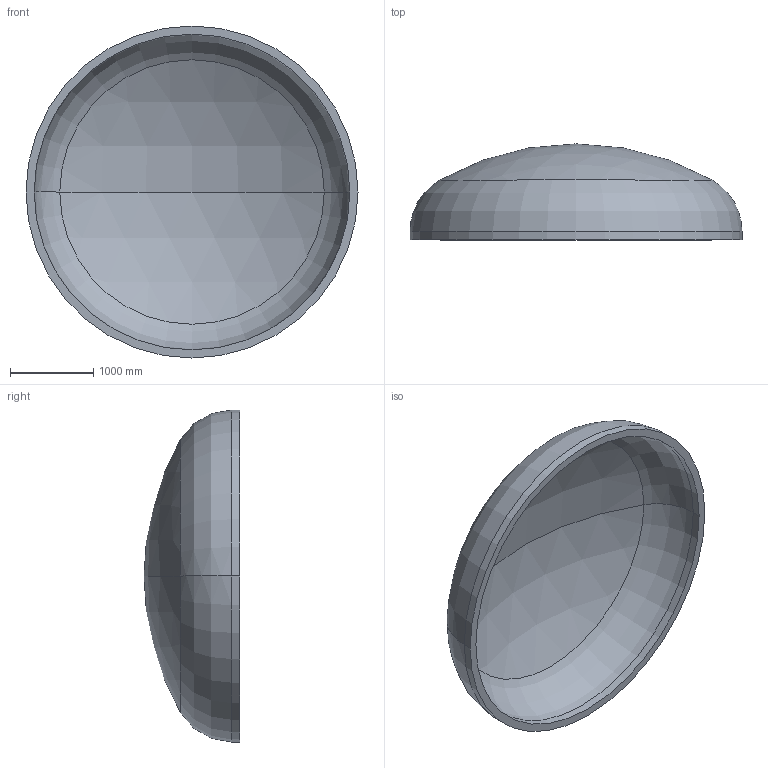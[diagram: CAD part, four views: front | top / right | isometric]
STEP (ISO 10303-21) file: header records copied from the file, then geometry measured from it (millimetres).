
FILE_DESCRIPTION (( 'STEP AP203' ), '1' );
FILE_NAME ('DIN 28013 Korbbogenform_-_Boden DIN 28013 - 4000 x 100 - I - s=98.step', '2016-07-01T22:47:49', ( '' ), ( '' ), 'SwSTEP 2.0', 'SolidWorks 2013', '' );
FILE_SCHEMA (( 'CONFIG_CONTROL_DESIGN' ));
Length unit declared in the file: millimetre
Products named in the file (1): DIN 28013 Korbbogenform_-_Boden DIN 28013 - 4000 x 100 - I - s=98
Bounding box: 4000 x 1156.16 x 4000 mm (x, y, z)
Volume: 1771255114 mm3; surface area: 37369498 mm2
Topology: 1 solids, 1 shells, 13 faces, 24 edges, 14 vertices
Faces by surface type: torus 4, cylinder 4, sphere 4, plane 1
Entity records: 407 total; most frequent: DIRECTION 72, CARTESIAN_POINT 52, ORIENTED_EDGE 48, AXIS2_PLACEMENT_3D 34, EDGE_CURVE 24, CIRCLE 20, VERTEX_POINT 14, EDGE_LOOP 14
